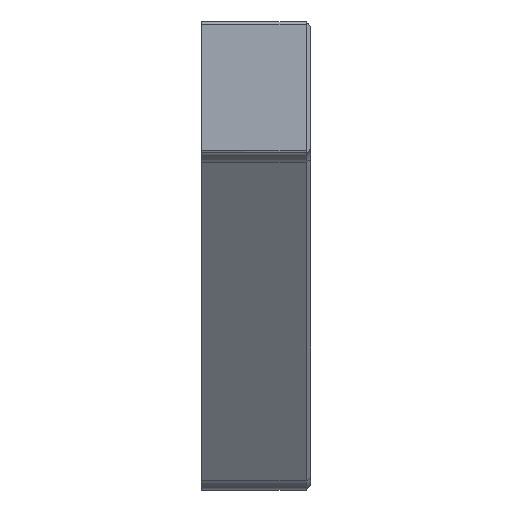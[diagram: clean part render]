
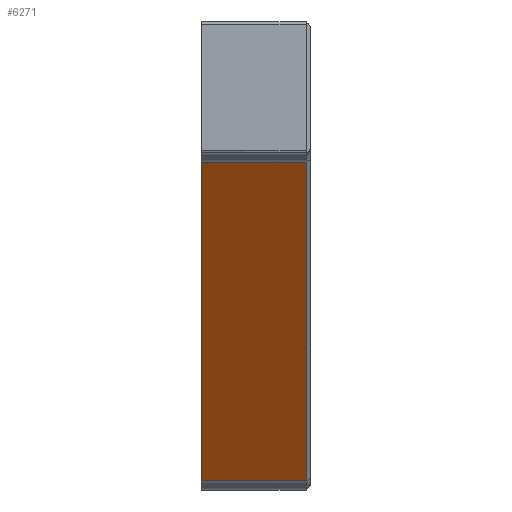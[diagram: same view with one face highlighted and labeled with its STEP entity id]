
A CAD part, left-side view. The second image highlights one B-rep face of the part: STEP entity #6271.
In plain terms, the highlighted planar face has unit normal (-0.819, 0, -0.574).
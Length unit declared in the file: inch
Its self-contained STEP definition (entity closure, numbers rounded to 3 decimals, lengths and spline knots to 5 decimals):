
#11 = CARTESIAN_POINT ( 'NONE',  ( 1.7631, 0.98425, -3.54757 ) ) ;
#82 = CARTESIAN_POINT ( 'NONE',  ( -0.24864, 0.03937, -0.67449 ) ) ;
#150 = VECTOR ( 'NONE', #4964, 39.37008 ) ;
#329 = ORIENTED_EDGE ( 'NONE', *, *, #3419, .T. ) ;
#352 = AXIS2_PLACEMENT_3D ( 'NONE', #3080, #2130, #1608 ) ;
#400 = VECTOR ( 'NONE', #4949, 39.37008 ) ;
#493 = CARTESIAN_POINT ( 'NONE',  ( 1.7631, 0.98425, -3.54757 ) ) ;
#580 = CARTESIAN_POINT ( 'NONE',  ( -0.24864, 0.98425, -0.67449 ) ) ;
#802 = VECTOR ( 'NONE', #2124, 39.37008 ) ;
#1071 = DIRECTION ( 'NONE',  ( -0.574, 0., 0.819 ) ) ;
#1512 = CARTESIAN_POINT ( 'NONE',  ( 1.7631, 0.03937, -3.54757 ) ) ;
#1550 = EDGE_CURVE ( 'NONE', #2471, #3584, #5461, .T. ) ;
#1556 = VERTEX_POINT ( 'NONE', #11 ) ;
#1602 = LINE ( 'NONE', #82, #4490 ) ;
#1608 = DIRECTION ( 'NONE',  ( 0.574, 0., -0.819 ) ) ;
#1995 = ORIENTED_EDGE ( 'NONE', *, *, #2740, .T. ) ;
#2124 = DIRECTION ( 'NONE',  ( -0.574, 0., 0.819 ) ) ;
#2130 = DIRECTION ( 'NONE',  ( 0.819, 0., 0.574 ) ) ;
#2221 = EDGE_LOOP ( 'NONE', ( #329, #1995, #3207, #2578 ) ) ;
#2471 = VERTEX_POINT ( 'NONE', #3780 ) ;
#2578 = ORIENTED_EDGE ( 'NONE', *, *, #2728, .F. ) ;
#2624 = PLANE ( 'NONE',  #352 ) ;
#2728 = EDGE_CURVE ( 'NONE', #1556, #3584, #3171, .T. ) ;
#2740 = EDGE_CURVE ( 'NONE', #3856, #2471, #1602, .T. ) ;
#3055 = LINE ( 'NONE', #493, #400 ) ;
#3080 = CARTESIAN_POINT ( 'NONE',  ( 1.86301, 0.98425, -3.69025 ) ) ;
#3171 = LINE ( 'NONE', #4631, #802 ) ;
#3207 = ORIENTED_EDGE ( 'NONE', *, *, #1550, .T. ) ;
#3419 = EDGE_CURVE ( 'NONE', #1556, #3856, #3055, .T. ) ;
#3584 = VERTEX_POINT ( 'NONE', #580 ) ;
#3780 = CARTESIAN_POINT ( 'NONE',  ( -0.24864, 0.03937, -0.67449 ) ) ;
#3856 = VERTEX_POINT ( 'NONE', #1512 ) ;
#4490 = VECTOR ( 'NONE', #1071, 39.37008 ) ;
#4631 = CARTESIAN_POINT ( 'NONE',  ( 1.86301, 0.98425, -3.69025 ) ) ;
#4638 = FACE_OUTER_BOUND ( 'NONE', #2221, .T. ) ;
#4949 = DIRECTION ( 'NONE',  ( 0., -1., 0. ) ) ;
#4964 = DIRECTION ( 'NONE',  ( 0., 1., 0. ) ) ;
#5461 = LINE ( 'NONE', #5950, #150 ) ;
#5950 = CARTESIAN_POINT ( 'NONE',  ( -0.24864, 0.98425, -0.67449 ) ) ;
#6271 = ADVANCED_FACE ( 'NONE', ( #4638 ), #2624, .F. ) ;
